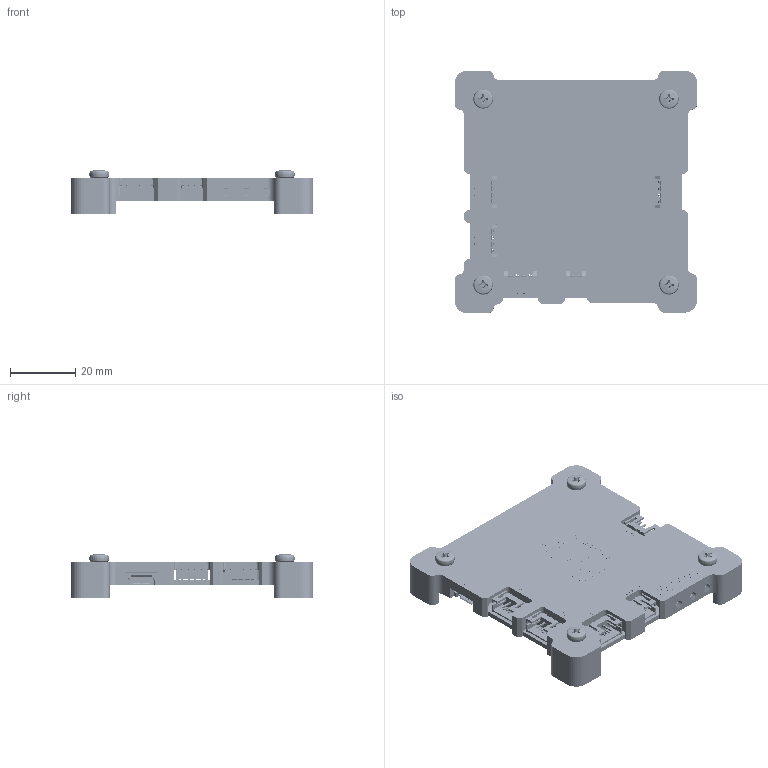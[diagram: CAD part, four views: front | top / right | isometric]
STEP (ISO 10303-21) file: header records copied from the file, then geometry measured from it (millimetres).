
FILE_DESCRIPTION(/* description */ ('KiCad electronic assembly'),/* implementation_level */ '2;1');
FILE_NAME(/* name */ 'Alshain-Pica-Readout-v1.step',/* time_stamp */ '2026-06-10T17:11:08+03:00',/* author */ (''),/* organization */ (''),/* preprocessor_version */ 'ST-DEVELOPER v20.1',/* originating_system */ 'Autodesk Translation Framework v15.8.0.0',/* authorisation */ '');
FILE_SCHEMA (('AUTOMOTIVE_DESIGN { 1 0 10303 214 3 1 1 }'));
Products named in the file (11): pica-readout 1; 474910001; SOLID; COMPOUND; JST_PH_S2B-PH-K_1x02_P2.00mm_Horizontal; JST_PH_S4B-PH-K_1x04_P2.00mm_Horizontal; LED_0805_2012Metric; pica-readout_PCB; kotelo; 92005A118_Steel Pan Head Phillips Screw; 91828A211_Corrosion-Resistant 18-8 Stainless Steel Hex Nut
Assembly tree (21 placements, depth 3):
  pica-readout 1
    JST_PH_S4B-PH-K_1x04_P2.00mm_Horizontal  x4
    LED_0805_2012Metric  x3
    474910001
      SOLID
      COMPOUND
    JST_PH_S2B-PH-K_1x02_P2.00mm_Horizontal
    pica-readout_PCB
    kotelo
      92005A118_Steel Pan Head Phillips Screw  x4
      91828A211_Corrosion-Resistant 18-8 Stainless Steel Hex Nut  x4
Bounding box: 74.5 x 74.5 x 13.39 mm (x, y, z)
Volume: 22811.9 mm3; surface area: 34636.1 mm2
Topology: 20 solids, 20 shells, 14355 faces, 41899 edges, 27861 vertices
Faces by surface type: plane 13621, cylinder 574, cone 124, bspline 16, sphere 12, torus 8
Full cylindrical faces by diameter (mm): 0.5 x6, 0.75 x22, 1 x2, 2.35 x76, 2.5 x8, 3 x72, 3.2 x4, 6 x3
Entity records: 441515 total; most frequent: CARTESIAN_POINT 82844, ORIENTED_EDGE 78756, DIRECTION 66917, EDGE_CURVE 39378, LINE 38459, VECTOR 38459, VERTEX_POINT 26219, AXIS2_PLACEMENT_3D 14229
